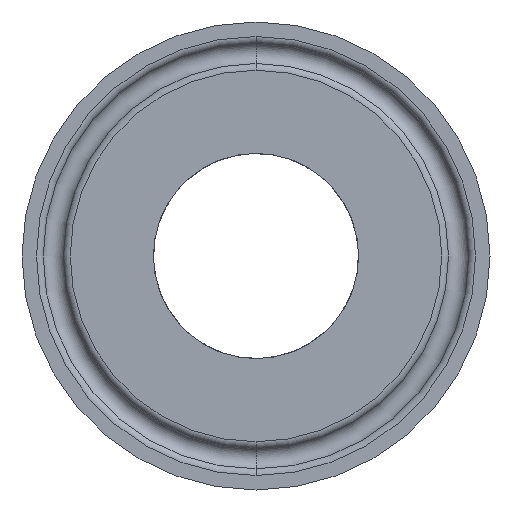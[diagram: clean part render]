
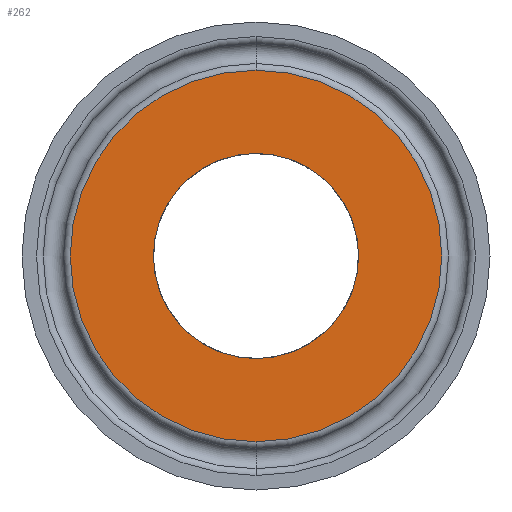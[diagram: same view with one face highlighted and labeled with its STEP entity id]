
A CAD part, front view. The second image highlights one B-rep face of the part: STEP entity #262.
In plain terms, the highlighted planar face has unit normal (0, -1, 0).
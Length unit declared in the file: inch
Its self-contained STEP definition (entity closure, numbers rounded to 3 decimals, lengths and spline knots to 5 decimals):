
#81 = DIRECTION ( 'NONE',  ( 0., -1., 0. ) ) ;
#86 = CIRCLE ( 'NONE', #249, 0.435 ) ;
#221 = CARTESIAN_POINT ( 'NONE',  ( 0., 0., -0.78742 ) ) ;
#222 = DIRECTION ( 'NONE',  ( 0., -1., 0. ) ) ;
#249 = AXIS2_PLACEMENT_3D ( 'NONE', #356, #1410, #951 ) ;
#262 = ADVANCED_FACE ( 'NONE', ( #1378, #1205 ), #380, .F. ) ;
#271 = ORIENTED_EDGE ( 'NONE', *, *, #1351, .F. ) ;
#310 = EDGE_LOOP ( 'NONE', ( #585, #1033 ) ) ;
#337 = CARTESIAN_POINT ( 'NONE',  ( 0., 0., -0.435 ) ) ;
#356 = CARTESIAN_POINT ( 'NONE',  ( 0., 0., 0. ) ) ;
#369 = CARTESIAN_POINT ( 'NONE',  ( 0., 0., 0. ) ) ;
#380 = PLANE ( 'NONE',  #744 ) ;
#459 = CIRCLE ( 'NONE', #1118, 0.78742 ) ;
#509 = DIRECTION ( 'NONE',  ( 0., 1., 0. ) ) ;
#585 = ORIENTED_EDGE ( 'NONE', *, *, #1064, .T. ) ;
#693 = VERTEX_POINT ( 'NONE', #1075 ) ;
#744 = AXIS2_PLACEMENT_3D ( 'NONE', #1308, #509, #1432 ) ;
#770 = AXIS2_PLACEMENT_3D ( 'NONE', #900, #81, #1029 ) ;
#797 = AXIS2_PLACEMENT_3D ( 'NONE', #1038, #222, #1169 ) ;
#807 = CIRCLE ( 'NONE', #797, 0.435 ) ;
#868 = DIRECTION ( 'NONE',  ( 0., 0., -1. ) ) ;
#889 = CARTESIAN_POINT ( 'NONE',  ( 0., 0., 0.435 ) ) ;
#900 = CARTESIAN_POINT ( 'NONE',  ( 0., 0., 0. ) ) ;
#901 = CIRCLE ( 'NONE', #770, 0.78742 ) ;
#935 = VERTEX_POINT ( 'NONE', #337 ) ;
#951 = DIRECTION ( 'NONE',  ( 0., 0., -1. ) ) ;
#1029 = DIRECTION ( 'NONE',  ( 0., 0., -1. ) ) ;
#1033 = ORIENTED_EDGE ( 'NONE', *, *, #1674, .T. ) ;
#1038 = CARTESIAN_POINT ( 'NONE',  ( 0., 0., 0. ) ) ;
#1064 = EDGE_CURVE ( 'NONE', #1693, #693, #901, .T. ) ;
#1074 = ORIENTED_EDGE ( 'NONE', *, *, #1158, .F. ) ;
#1075 = CARTESIAN_POINT ( 'NONE',  ( 0., 0., 0.78742 ) ) ;
#1118 = AXIS2_PLACEMENT_3D ( 'NONE', #369, #1295, #868 ) ;
#1158 = EDGE_CURVE ( 'NONE', #1623, #935, #86, .T. ) ;
#1169 = DIRECTION ( 'NONE',  ( 0., 0., -1. ) ) ;
#1205 = FACE_OUTER_BOUND ( 'NONE', #310, .T. ) ;
#1219 = EDGE_LOOP ( 'NONE', ( #271, #1074 ) ) ;
#1295 = DIRECTION ( 'NONE',  ( 0., -1., 0. ) ) ;
#1308 = CARTESIAN_POINT ( 'NONE',  ( 0., 0., 0. ) ) ;
#1351 = EDGE_CURVE ( 'NONE', #935, #1623, #807, .T. ) ;
#1378 = FACE_BOUND ( 'NONE', #1219, .T. ) ;
#1410 = DIRECTION ( 'NONE',  ( 0., -1., 0. ) ) ;
#1432 = DIRECTION ( 'NONE',  ( 0., 0., 1. ) ) ;
#1623 = VERTEX_POINT ( 'NONE', #889 ) ;
#1674 = EDGE_CURVE ( 'NONE', #693, #1693, #459, .T. ) ;
#1693 = VERTEX_POINT ( 'NONE', #221 ) ;
